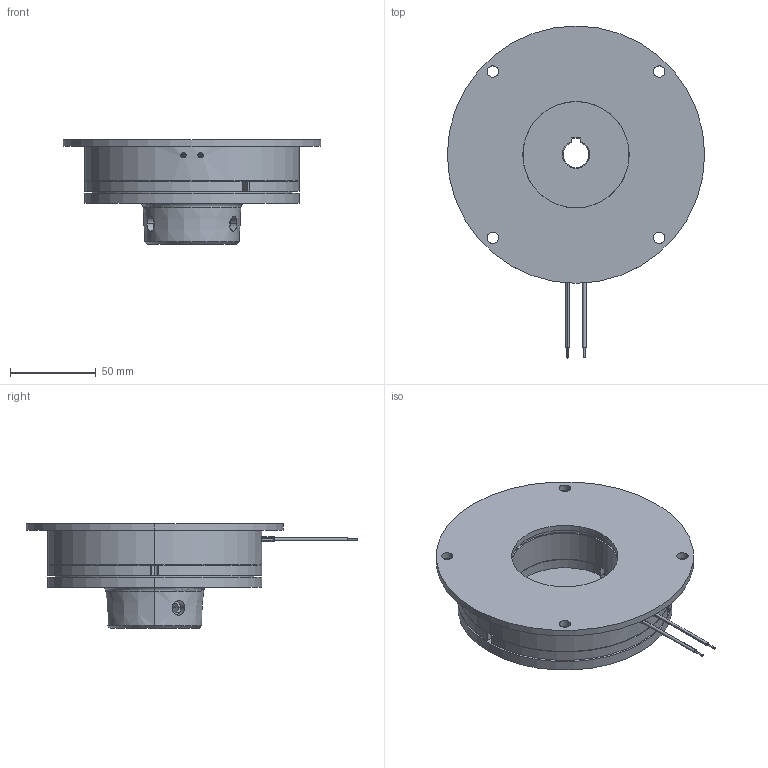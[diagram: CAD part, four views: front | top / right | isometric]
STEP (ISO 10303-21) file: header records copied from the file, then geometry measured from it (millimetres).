
FILE_DESCRIPTION (( 'STEP AP214' ), '1' );
FILE_NAME ('dr_bk_0902-130_mu.STEP', '2021-11-10T10:17:39', ( '' ), ( '' ), 'SwSTEP 2.0', 'SolidWorks 2019', '' );
FILE_SCHEMA (( 'AUTOMOTIVE_DESIGN' ));
Length unit declared in the file: millimetre
Products named in the file (10): 10068852_000; 10068853_000_Montagezustand; 10068858_000_M 10 x 16; 10068851_000; 10068856_000; 10068857_000; 10068854_000; 10068699_000; dr_bk_0902-130_mu; 10068848_000_eingebaut in 09.P1.010-0177 Ankerteil
Assembly tree (20 placements, depth 4):
  dr_bk_0902-130_mu
    10068699_000
    10068856_000
      10068857_000
      10068852_000
        10068851_000
        10068854_000
        10068853_000_Montagezustand  x3
        10068848_000_eingebaut in 09.P1.010-0177 Ankerteil  x3
      10068858_000_M 10 x 16  x2
      10068848_000_eingebaut in 09.P1.010-0177 Ankerteil  x3
      10068853_000_Montagezustand  x3
Bounding box: 150 x 193.5 x 61.2 mm (x, y, z)
Volume: 421968.4 mm3; surface area: 118647.7 mm2
Topology: 20 solids, 20 shells, 627 faces, 1575 edges, 1000 vertices
Faces by surface type: cylinder 187, plane 186, bspline 132, cone 86, torus 24, sphere 12
Entity records: 23875 total; most frequent: CARTESIAN_POINT 11868, ORIENTED_EDGE 2550, DIRECTION 2009, EDGE_CURVE 1275, VERTEX_POINT 829, AXIS2_PLACEMENT_3D 731, EDGE_LOOP 562, LINE 547
